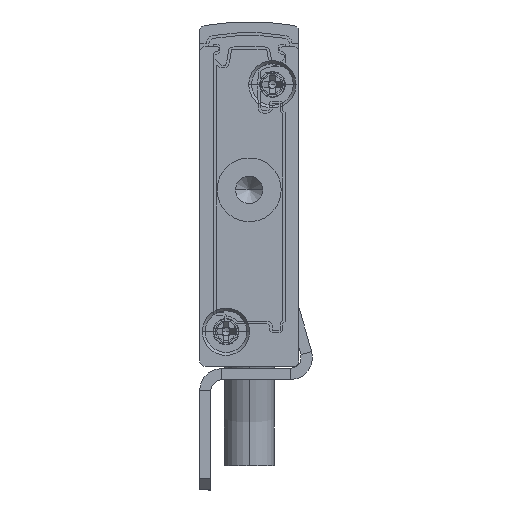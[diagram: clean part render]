
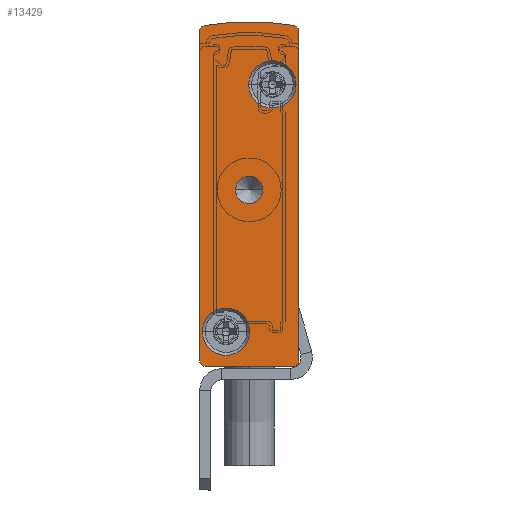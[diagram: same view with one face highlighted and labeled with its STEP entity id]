
A CAD part, front view. The second image highlights one B-rep face of the part: STEP entity #13429.
In plain terms, the highlighted planar face has unit normal (0, -1, 0).
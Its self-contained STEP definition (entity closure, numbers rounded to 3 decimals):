
#49 = DIRECTION ( 'NONE',  ( -1., 0., 0. ) ) ;
#951 = EDGE_CURVE ( 'NONE', #4930, #17648, #3285, .T. ) ;
#1094 = AXIS2_PLACEMENT_3D ( 'NONE', #8867, #4873, #2940 ) ;
#1424 = AXIS2_PLACEMENT_3D ( 'NONE', #8917, #18041, #12707 ) ;
#1758 = DIRECTION ( 'NONE',  ( 0., 1., 0. ) ) ;
#2058 = AXIS2_PLACEMENT_3D ( 'NONE', #3181, #10276, #23228 ) ;
#2205 = DIRECTION ( 'NONE',  ( 0., 1., 0. ) ) ;
#2940 = DIRECTION ( 'NONE',  ( 1., 0., 0. ) ) ;
#2979 = CARTESIAN_POINT ( 'NONE',  ( -0.5, -2.5, 0. ) ) ;
#3181 = CARTESIAN_POINT ( 'NONE',  ( -2.4, -2.5, 25.55 ) ) ;
#3285 = LINE ( 'NONE', #8151, #22437 ) ;
#3520 = VECTOR ( 'NONE', #49, 1000. ) ;
#3551 = ORIENTED_EDGE ( 'NONE', *, *, #23345, .F. ) ;
#3583 = ORIENTED_EDGE ( 'NONE', *, *, #5763, .F. ) ;
#3602 = ORIENTED_EDGE ( 'NONE', *, *, #18204, .F. ) ;
#3691 = CARTESIAN_POINT ( 'NONE',  ( -8.5, -2.5, 30.402 ) ) ;
#3792 = CARTESIAN_POINT ( 'NONE',  ( -8.5, -2.5, 0.5 ) ) ;
#3812 = VECTOR ( 'NONE', #15555, 1000. ) ;
#3857 = EDGE_CURVE ( 'NONE', #9082, #16327, #8534, .T. ) ;
#3946 = CARTESIAN_POINT ( 'NONE',  ( -8.5, -2.5, 0. ) ) ;
#4167 = EDGE_CURVE ( 'NONE', #7199, #13771, #11409, .T. ) ;
#4272 = ORIENTED_EDGE ( 'NONE', *, *, #12155, .F. ) ;
#4356 = CARTESIAN_POINT ( 'NONE',  ( -9., -2.5, 0.5 ) ) ;
#4694 = LINE ( 'NONE', #14943, #3520 ) ;
#4713 = EDGE_CURVE ( 'NONE', #13039, #4930, #15565, .T. ) ;
#4873 = DIRECTION ( 'NONE',  ( 0., -1., 0. ) ) ;
#4930 = VERTEX_POINT ( 'NONE', #4356 ) ;
#5040 = AXIS2_PLACEMENT_3D ( 'NONE', #17437, #8153, #22813 ) ;
#5528 = CIRCLE ( 'NONE', #15777, 23.658 ) ;
#5544 = CIRCLE ( 'NONE', #1094, 2.15 ) ;
#5582 = VERTEX_POINT ( 'NONE', #2979 ) ;
#5665 = PLANE ( 'NONE',  #5960 ) ;
#5725 = CIRCLE ( 'NONE', #12715, 0.5 ) ;
#5763 = EDGE_CURVE ( 'NONE', #17456, #5582, #7509, .T. ) ;
#5960 = AXIS2_PLACEMENT_3D ( 'NONE', #3691, #16820, #18556 ) ;
#6394 = CARTESIAN_POINT ( 'NONE',  ( 0., -2.5, 30.402 ) ) ;
#6453 = LINE ( 'NONE', #6394, #3812 ) ;
#7172 = FACE_BOUND ( 'NONE', #10242, .T. ) ;
#7174 = CARTESIAN_POINT ( 'NONE',  ( -4.45, -2.5, 3.15 ) ) ;
#7188 = AXIS2_PLACEMENT_3D ( 'NONE', #19604, #12347, #15957 ) ;
#7199 = VERTEX_POINT ( 'NONE', #16403 ) ;
#7213 = ORIENTED_EDGE ( 'NONE', *, *, #14802, .F. ) ;
#7452 = AXIS2_PLACEMENT_3D ( 'NONE', #9989, #10304, #12175 ) ;
#7486 = ORIENTED_EDGE ( 'NONE', *, *, #12701, .T. ) ;
#7509 = CIRCLE ( 'NONE', #1424, 0.5 ) ;
#7531 = DIRECTION ( 'NONE',  ( -1., 0., 0. ) ) ;
#7688 = DIRECTION ( 'NONE',  ( 0., 1., 0. ) ) ;
#7729 = VERTEX_POINT ( 'NONE', #12579 ) ;
#8151 = CARTESIAN_POINT ( 'NONE',  ( -9., -2.5, 30.402 ) ) ;
#8153 = DIRECTION ( 'NONE',  ( 0., 1., 0. ) ) ;
#8534 = CIRCLE ( 'NONE', #5040, 1.25 ) ;
#8867 = CARTESIAN_POINT ( 'NONE',  ( -2.4, -2.5, 25.55 ) ) ;
#8917 = CARTESIAN_POINT ( 'NONE',  ( -0.5, -2.5, 0.5 ) ) ;
#9038 = CARTESIAN_POINT ( 'NONE',  ( -0.25, -2.5, 25.55 ) ) ;
#9082 = VERTEX_POINT ( 'NONE', #21691 ) ;
#9146 = DIRECTION ( 'NONE',  ( -1., 0., 0. ) ) ;
#9208 = CIRCLE ( 'NONE', #7452, 2.15 ) ;
#9215 = AXIS2_PLACEMENT_3D ( 'NONE', #20688, #2205, #22565 ) ;
#9677 = DIRECTION ( 'NONE',  ( 0., 1., 0. ) ) ;
#9989 = CARTESIAN_POINT ( 'NONE',  ( -6.6, -2.5, 3.15 ) ) ;
#10242 = EDGE_LOOP ( 'NONE', ( #16156, #7486 ) ) ;
#10276 = DIRECTION ( 'NONE',  ( 0., -1., 0. ) ) ;
#10304 = DIRECTION ( 'NONE',  ( 0., -1., 0. ) ) ;
#10610 = EDGE_CURVE ( 'NONE', #17648, #18223, #5725, .T. ) ;
#10784 = EDGE_CURVE ( 'NONE', #12190, #14906, #9208, .T. ) ;
#11158 = CARTESIAN_POINT ( 'NONE',  ( -8.75, -2.5, 3.15 ) ) ;
#11265 = AXIS2_PLACEMENT_3D ( 'NONE', #16287, #1758, #9146 ) ;
#11355 = CIRCLE ( 'NONE', #7188, 2.15 ) ;
#11409 = CIRCLE ( 'NONE', #11265, 0.5 ) ;
#11613 = DIRECTION ( 'NONE',  ( 0., 0., 1. ) ) ;
#11806 = EDGE_CURVE ( 'NONE', #5582, #13039, #4694, .T. ) ;
#12155 = EDGE_CURVE ( 'NONE', #19925, #7729, #5544, .T. ) ;
#12175 = DIRECTION ( 'NONE',  ( 1., 0., 0. ) ) ;
#12190 = VERTEX_POINT ( 'NONE', #7174 ) ;
#12347 = DIRECTION ( 'NONE',  ( 0., -1., 0. ) ) ;
#12579 = CARTESIAN_POINT ( 'NONE',  ( -4.55, -2.5, 25.55 ) ) ;
#12701 = EDGE_CURVE ( 'NONE', #16327, #9082, #21123, .T. ) ;
#12707 = DIRECTION ( 'NONE',  ( -1., 0., 0. ) ) ;
#12715 = AXIS2_PLACEMENT_3D ( 'NONE', #14827, #20437, #22292 ) ;
#12765 = EDGE_LOOP ( 'NONE', ( #4272, #13162 ) ) ;
#12943 = FACE_BOUND ( 'NONE', #12765, .T. ) ;
#13039 = VERTEX_POINT ( 'NONE', #3946 ) ;
#13133 = EDGE_LOOP ( 'NONE', ( #23798, #3602 ) ) ;
#13162 = ORIENTED_EDGE ( 'NONE', *, *, #13824, .F. ) ;
#13429 = ADVANCED_FACE ( 'NONE', ( #12943, #22212, #16119, #7172 ), #5665, .F. ) ;
#13771 = VERTEX_POINT ( 'NONE', #13987 ) ;
#13824 = EDGE_CURVE ( 'NONE', #7729, #19925, #19816, .T. ) ;
#13957 = ORIENTED_EDGE ( 'NONE', *, *, #4167, .F. ) ;
#13987 = CARTESIAN_POINT ( 'NONE',  ( 0., -2.5, 30.402 ) ) ;
#14012 = ORIENTED_EDGE ( 'NONE', *, *, #4713, .F. ) ;
#14802 = EDGE_CURVE ( 'NONE', #18223, #7199, #5528, .T. ) ;
#14827 = CARTESIAN_POINT ( 'NONE',  ( -8.5, -2.5, 30.402 ) ) ;
#14906 = VERTEX_POINT ( 'NONE', #11158 ) ;
#14943 = CARTESIAN_POINT ( 'NONE',  ( -8.5, -2.5, 0. ) ) ;
#15555 = DIRECTION ( 'NONE',  ( 0., 0., -1. ) ) ;
#15565 = CIRCLE ( 'NONE', #17332, 0.5 ) ;
#15777 = AXIS2_PLACEMENT_3D ( 'NONE', #16809, #7688, #7531 ) ;
#15957 = DIRECTION ( 'NONE',  ( 1., 0., 0. ) ) ;
#16119 = FACE_OUTER_BOUND ( 'NONE', #20462, .T. ) ;
#16156 = ORIENTED_EDGE ( 'NONE', *, *, #3857, .T. ) ;
#16287 = CARTESIAN_POINT ( 'NONE',  ( -0.5, -2.5, 30.402 ) ) ;
#16327 = VERTEX_POINT ( 'NONE', #22665 ) ;
#16403 = CARTESIAN_POINT ( 'NONE',  ( -0.408, -2.5, 30.893 ) ) ;
#16809 = CARTESIAN_POINT ( 'NONE',  ( -4.5, -2.5, 7.592 ) ) ;
#16820 = DIRECTION ( 'NONE',  ( 0., 1., 0. ) ) ;
#17172 = CARTESIAN_POINT ( 'NONE',  ( -9., -2.5, 30.402 ) ) ;
#17332 = AXIS2_PLACEMENT_3D ( 'NONE', #3792, #9677, #18594 ) ;
#17437 = CARTESIAN_POINT ( 'NONE',  ( -4.5, -2.5, 16. ) ) ;
#17456 = VERTEX_POINT ( 'NONE', #19937 ) ;
#17648 = VERTEX_POINT ( 'NONE', #17172 ) ;
#17665 = CARTESIAN_POINT ( 'NONE',  ( -8.592, -2.5, 30.893 ) ) ;
#18041 = DIRECTION ( 'NONE',  ( 0., 1., 0. ) ) ;
#18089 = ORIENTED_EDGE ( 'NONE', *, *, #11806, .F. ) ;
#18204 = EDGE_CURVE ( 'NONE', #14906, #12190, #11355, .T. ) ;
#18223 = VERTEX_POINT ( 'NONE', #17665 ) ;
#18556 = DIRECTION ( 'NONE',  ( -1., 0., 0. ) ) ;
#18594 = DIRECTION ( 'NONE',  ( -1., 0., 0. ) ) ;
#19604 = CARTESIAN_POINT ( 'NONE',  ( -6.6, -2.5, 3.15 ) ) ;
#19816 = CIRCLE ( 'NONE', #2058, 2.15 ) ;
#19925 = VERTEX_POINT ( 'NONE', #9038 ) ;
#19937 = CARTESIAN_POINT ( 'NONE',  ( 0., -2.5, 0.5 ) ) ;
#20437 = DIRECTION ( 'NONE',  ( 0., 1., 0. ) ) ;
#20462 = EDGE_LOOP ( 'NONE', ( #22469, #23029, #14012, #18089, #3583, #3551, #13957, #7213 ) ) ;
#20688 = CARTESIAN_POINT ( 'NONE',  ( -4.5, -2.5, 16. ) ) ;
#21123 = CIRCLE ( 'NONE', #9215, 1.25 ) ;
#21691 = CARTESIAN_POINT ( 'NONE',  ( -5.75, -2.5, 16. ) ) ;
#22212 = FACE_BOUND ( 'NONE', #13133, .T. ) ;
#22292 = DIRECTION ( 'NONE',  ( -1., 0., 0. ) ) ;
#22437 = VECTOR ( 'NONE', #11613, 1000. ) ;
#22469 = ORIENTED_EDGE ( 'NONE', *, *, #10610, .F. ) ;
#22565 = DIRECTION ( 'NONE',  ( -1., 0., 0. ) ) ;
#22665 = CARTESIAN_POINT ( 'NONE',  ( -3.25, -2.5, 16. ) ) ;
#22813 = DIRECTION ( 'NONE',  ( -1., 0., 0. ) ) ;
#23029 = ORIENTED_EDGE ( 'NONE', *, *, #951, .F. ) ;
#23228 = DIRECTION ( 'NONE',  ( 1., 0., 0. ) ) ;
#23345 = EDGE_CURVE ( 'NONE', #13771, #17456, #6453, .T. ) ;
#23798 = ORIENTED_EDGE ( 'NONE', *, *, #10784, .F. ) ;
